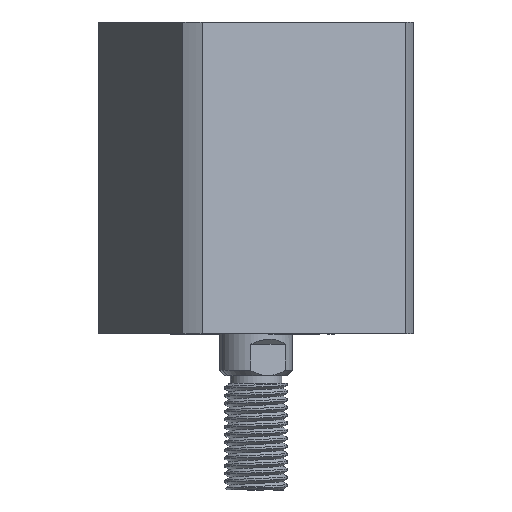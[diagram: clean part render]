
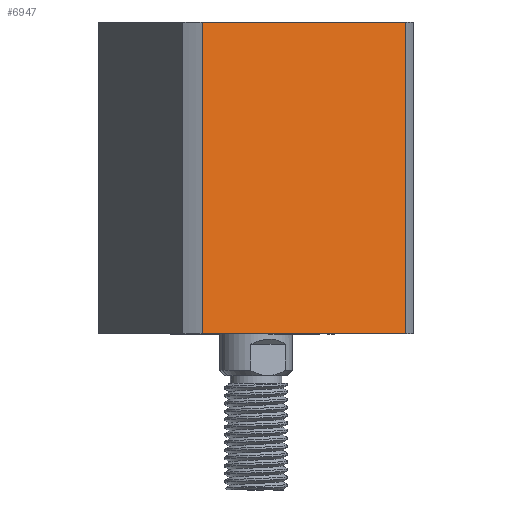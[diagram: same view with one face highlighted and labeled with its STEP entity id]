
A CAD part, left-side view. The second image highlights one B-rep face of the part: STEP entity #6947.
In plain terms, the highlighted planar face has unit normal (-0.924, -0.383, 0) as drawn and (1, 0, 0) by its records, which use the part's own axes.
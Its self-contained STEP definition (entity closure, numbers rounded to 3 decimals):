
#298 = CARTESIAN_POINT ( 'NONE',  ( 24., -21.166, 60. ) ) ;
#484 = EDGE_CURVE ( 'NONE', #9490, #6727, #9911, .T. ) ;
#831 = DIRECTION ( 'NONE',  ( 0., -1., 0. ) ) ;
#878 = LINE ( 'NONE', #2211, #9465 ) ;
#1510 = CARTESIAN_POINT ( 'NONE',  ( 24., 24., 0. ) ) ;
#2211 = CARTESIAN_POINT ( 'NONE',  ( 24., 21.166, -240. ) ) ;
#2444 = PLANE ( 'NONE',  #3122 ) ;
#3053 = VECTOR ( 'NONE', #6728, 1000. ) ;
#3122 = AXIS2_PLACEMENT_3D ( 'NONE', #4148, #5810, #831 ) ;
#3238 = EDGE_LOOP ( 'NONE', ( #3995, #8675, #8822, #7109 ) ) ;
#3895 = DIRECTION ( 'NONE',  ( 0., 0., -1. ) ) ;
#3993 = EDGE_CURVE ( 'NONE', #10375, #9490, #7464, .T. ) ;
#3995 = ORIENTED_EDGE ( 'NONE', *, *, #3993, .F. ) ;
#4148 = CARTESIAN_POINT ( 'NONE',  ( 24., 24., 60. ) ) ;
#5172 = VECTOR ( 'NONE', #9835, 1000. ) ;
#5488 = VECTOR ( 'NONE', #9435, 1000. ) ;
#5810 = DIRECTION ( 'NONE',  ( -1., 0., 0. ) ) ;
#5893 = CARTESIAN_POINT ( 'NONE',  ( 24., -21.166, -240. ) ) ;
#5932 = VERTEX_POINT ( 'NONE', #10564 ) ;
#6727 = VERTEX_POINT ( 'NONE', #9284 ) ;
#6728 = DIRECTION ( 'NONE',  ( 0., 0., 1. ) ) ;
#6947 = ADVANCED_FACE ( 'NONE', ( #9975 ), #2444, .F. ) ;
#7109 = ORIENTED_EDGE ( 'NONE', *, *, #484, .F. ) ;
#7369 = LINE ( 'NONE', #1510, #5172 ) ;
#7464 = LINE ( 'NONE', #5893, #3053 ) ;
#7686 = EDGE_CURVE ( 'NONE', #10375, #5932, #7369, .T. ) ;
#8128 = CARTESIAN_POINT ( 'NONE',  ( 24., -21.166, 0. ) ) ;
#8675 = ORIENTED_EDGE ( 'NONE', *, *, #7686, .T. ) ;
#8822 = ORIENTED_EDGE ( 'NONE', *, *, #10269, .F. ) ;
#9284 = CARTESIAN_POINT ( 'NONE',  ( 24., 21.166, 60. ) ) ;
#9435 = DIRECTION ( 'NONE',  ( 0., 1., 0. ) ) ;
#9465 = VECTOR ( 'NONE', #3895, 1000. ) ;
#9490 = VERTEX_POINT ( 'NONE', #298 ) ;
#9835 = DIRECTION ( 'NONE',  ( 0., 1., 0. ) ) ;
#9909 = CARTESIAN_POINT ( 'NONE',  ( 24., 24., 60. ) ) ;
#9911 = LINE ( 'NONE', #9909, #5488 ) ;
#9975 = FACE_OUTER_BOUND ( 'NONE', #3238, .T. ) ;
#10269 = EDGE_CURVE ( 'NONE', #6727, #5932, #878, .T. ) ;
#10375 = VERTEX_POINT ( 'NONE', #8128 ) ;
#10564 = CARTESIAN_POINT ( 'NONE',  ( 24., 21.166, 0. ) ) ;
